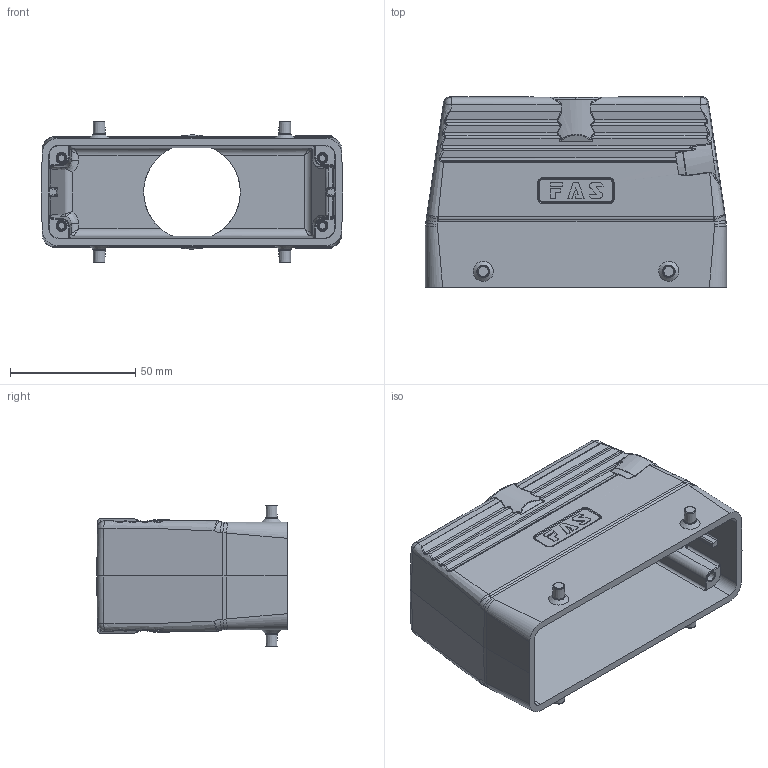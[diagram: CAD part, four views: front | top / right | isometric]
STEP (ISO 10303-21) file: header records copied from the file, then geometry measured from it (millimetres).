
FILE_DESCRIPTION (( 'STEP AP203' ), '1' );
FILE_NAME ('H24B-TGH-M40.STEP', '2023-06-13T06:18:18', ( '' ), ( '' ), 'SwSTEP 2.0', 'SolidWorks 2016', '' );
FILE_SCHEMA (( 'CONFIG_CONTROL_DESIGN' ));
Length unit declared in the file: millimetre
Products named in the file (1): H24B-TGH-M40
Bounding box: 120 x 76 x 56.4 mm (x, y, z)
Volume: 107872 mm3; surface area: 51316.5 mm2
Topology: 1 solids, 1 shells, 577 faces, 1490 edges, 935 vertices
Faces by surface type: bspline 198, cylinder 163, plane 147, cone 31, torus 26, sphere 12
Full cylindrical faces by diameter (mm): 38.5 x1
Entity records: 31884 total; most frequent: CARTESIAN_POINT 20667, ORIENTED_EDGE 2870, EDGE_CURVE 1435, DIRECTION 1424, VERTEX_POINT 914, B_SPLINE_CURVE_WITH_KNOTS 825, EDGE_LOOP 625, FACE_OUTER_BOUND 582
